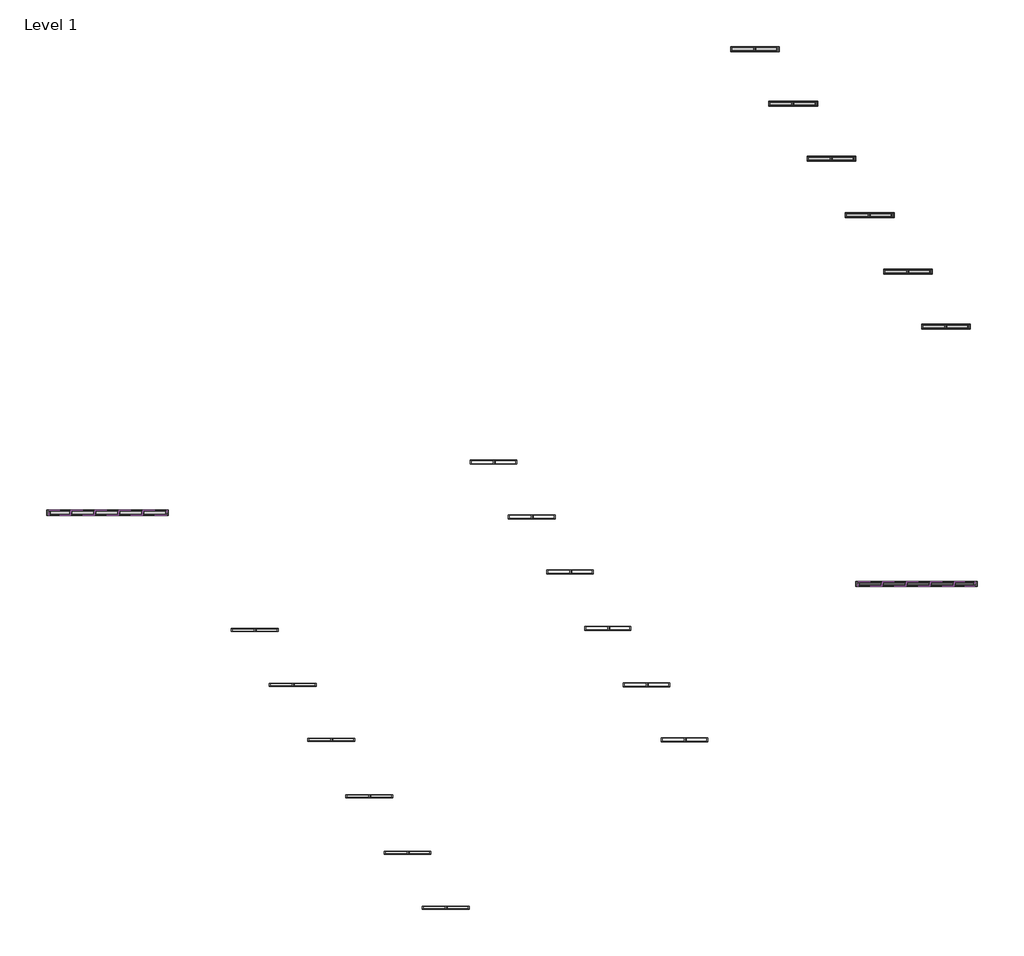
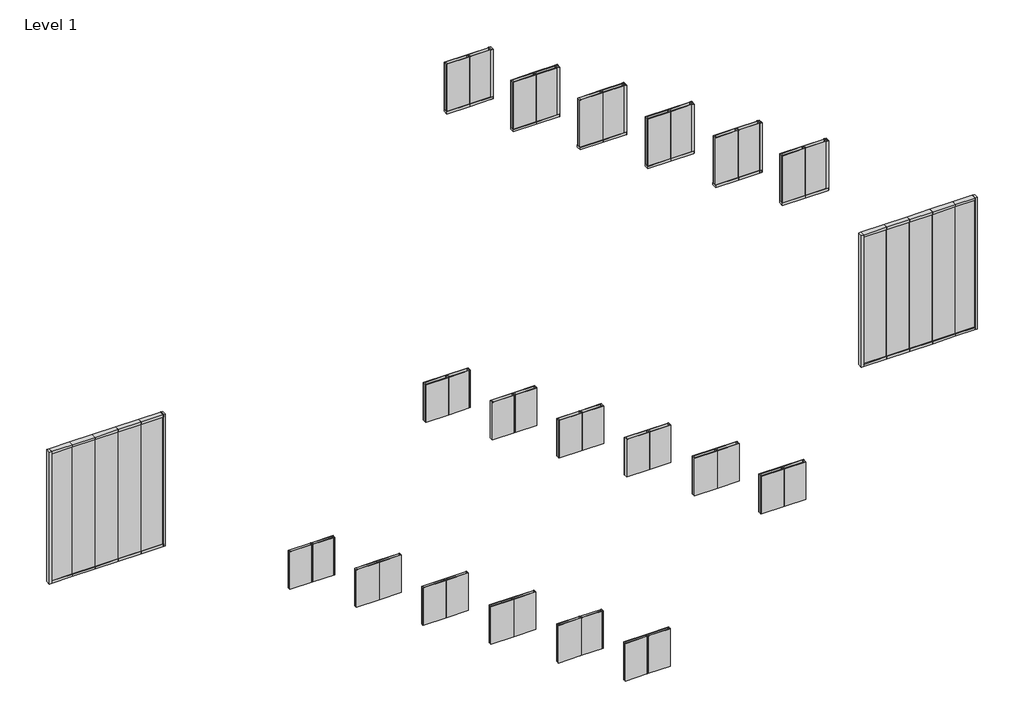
# One storey: 46 plates, 42 members.
"""IFC4 building model written with IfcOpenShell, lengths in millimetres."""

from ifc_helpers import new_model, si_unit, origin, place, context, project, spatial, transform, mapped, element, save
from components import rectangular_mullion_208d5230, rectangular_mullion_uniquad_quad_frame_clear_anodized_5a02334a, rectangular_mullion_uniquad_quad_frame_clear_anodized_c6627131, rectangular_mullion_uniquad_quad_frame_clear_anodized_229f6564, rectangular_mullion_uniquad_quad_frame_clear_anodized_5699e573, rectangular_mullion_uniquad_quad_frame_clear_anodized_4d31274b, rectangular_mullion_uniquad_quad_frame_clear_anodized_7ebbf98f, uniquad_quad_glazed_system_3in_3in_panel_blue_matte_5e3f416c, uniquad_quad_glazed_system_3in_3in_panel_blue_matte_152e314e, uniquad_quad_glazed_system_3in_3in_panel_bronze_matte_737278b4, uniquad_quad_glazed_system_3in_3in_panel_clear_matte_5acf8fc9, uniquad_quad_glazed_system_3in_3in_panel_clear_matte_50605331, uniquad_quad_glazed_system_3in_3in_panel_green_matte_5bbcedde, uniquad_quad_glazed_system_3in_3in_panel_ice_white_matte_8fae7f0b, uniquad_quad_glazed_system_3in_3in_panel_reflective_gray_ee349e5f, uniquad_quad_glazed_system_4in_4in_panel_blue_matte_2cbfe2ae, uniquad_quad_glazed_system_4in_4in_panel_blue_matte_3aa89edd, uniquad_quad_glazed_system_4in_4in_panel_bronze_matte_92f861ea, uniquad_quad_glazed_system_4in_4in_panel_clear_matte_58cb2d23, uniquad_quad_glazed_system_4in_4in_panel_clear_matte_11e1fce8, uniquad_quad_glazed_system_4in_4in_panel_clear_matte_for_53d59329, uniquad_quad_glazed_system_4in_4in_panel_clear_matte_39d02d22, uniquad_quad_glazed_system_4in_4in_panel_green_matte_f2a2bc47, uniquad_quad_glazed_system_4in_4in_panel_white_matte_e51044c1

model = new_model("IFC4")

# Units and contexts
model_context = context("Model", 3, world=origin())
ifc_project = project(units=[si_unit("LENGTHUNIT", "METRE", prefix="MILLI")], contexts=[model_context])

# Site, building, storey
site = spatial("IfcSite", under=ifc_project)
building = spatial("IfcBuilding", under=site)
storey = spatial("IfcBuildingStorey", under=building, Name="Level 1", Elevation=0.0)

# Members
placement = place(None, origin())
rectangular_mullion_shape = rectangular_mullion_208d5230(model_context)
element("IfcMember", 1, ObjectType="Rectangular Mullion : UniQuad-Quad Frame - Hartford Green #84", at=placement, inside=storey, context=model_context, shape_type="MappedRepresentation", body=[
    mapped(rectangular_mullion_shape, transform((17988.672058, 9946.0494316, 0.0), x_axis=(0.0, 0.0, -1.0), y_axis=(0.0, -1.0, 0.0), z_axis=(-1.0, 0.0, 0.0))),
])
rectangular_mullion_uniquad_quad_frame_clear_anodized_shape = rectangular_mullion_uniquad_quad_frame_clear_anodized_5a02334a(model_context)
element("IfcMember", 2, ObjectType="Rectangular Mullion : UniQuad-Quad Frame - Hartford Green #84", at=placement, inside=storey, context=model_context, shape_type="MappedRepresentation", body=[
    mapped(rectangular_mullion_uniquad_quad_frame_clear_anodized_shape, transform((18590.6322142, 9946.0494316, 0.0), x_axis=(0.0, 0.0, -1.0), y_axis=(0.0, -1.0, 0.0), z_axis=(-1.0, 0.0, 0.0))),
])
rectangular_mullion_uniquad_quad_frame_clear_anodized_2_shape = rectangular_mullion_uniquad_quad_frame_clear_anodized_c6627131(model_context)
element("IfcMember", 3, ObjectType="Rectangular Mullion : UniQuad-Quad Frame - Hartford Green #84", at=placement, inside=storey, context=model_context, shape_type="MappedRepresentation", body=[
    mapped(rectangular_mullion_uniquad_quad_frame_clear_anodized_2_shape, transform((19207.872058, 9946.0494316, 0.0), x_axis=(1.0, 0.0, 0.0), y_axis=(0.0, -1.0, 0.0), z_axis=(0.0, 0.0, -1.0))),
])
element("IfcMember", 4, ObjectType="Rectangular Mullion : UniQuad-Quad Frame - Quaker Bronze", at=placement, inside=storey, context=model_context, shape_type="MappedRepresentation", body=[
    mapped(rectangular_mullion_uniquad_quad_frame_clear_anodized_shape, transform((18946.7346901, 8529.3074819, 0.0), x_axis=(0.0, 0.0, -1.0), y_axis=(0.0, -1.0, 0.0), z_axis=(-1.0, 0.0, 0.0))),
])
element("IfcMember", 5, ObjectType="Rectangular Mullion : UniQuad-Quad Frame - Quaker Bronze", at=placement, inside=storey, context=model_context, shape_type="MappedRepresentation", body=[
    mapped(rectangular_mullion_shape, transform((19548.6948464, 8529.3074819, 0.0), x_axis=(0.0, 0.0, -1.0), y_axis=(0.0, -1.0, 0.0), z_axis=(-1.0, 0.0, 0.0))),
])
element("IfcMember", 6, ObjectType="Rectangular Mullion : UniQuad-Quad Frame - Quaker Bronze", at=placement, inside=storey, context=model_context, shape_type="MappedRepresentation", body=[
    mapped(rectangular_mullion_uniquad_quad_frame_clear_anodized_2_shape, transform((20165.9346901, 8529.3074819, 0.0), x_axis=(1.0, 0.0, 0.0), y_axis=(0.0, -1.0, 0.0), z_axis=(0.0, 0.0, -1.0))),
])
element("IfcMember", 7, ObjectType="Rectangular Mullion : UniQuad-Quad Frame - Clear Anodized Aluminum", at=placement, inside=storey, context=model_context, shape_type="MappedRepresentation", body=[
    mapped(rectangular_mullion_uniquad_quad_frame_clear_anodized_shape, transform((15716.4443177, 14110.0676806, 0.0), x_axis=(0.0, 0.0, -1.0), y_axis=(0.0, -1.0, 0.0), z_axis=(-1.0, 0.0, 0.0))),
])
element("IfcMember", 8, ObjectType="Rectangular Mullion : UniQuad-Quad Frame - Clear Anodized Aluminum", at=placement, inside=storey, context=model_context, shape_type="MappedRepresentation", body=[
    mapped(rectangular_mullion_uniquad_quad_frame_clear_anodized_2_shape, transform((16333.6841615, 14110.0676806, 0.0), x_axis=(1.0, 0.0, 0.0), y_axis=(0.0, -1.0, 0.0), z_axis=(0.0, 0.0, -1.0))),
])
rectangular_mullion_uniquad_quad_frame_clear_anodized_3_shape = rectangular_mullion_uniquad_quad_frame_clear_anodized_229f6564(model_context)
element("IfcMember", 9, ObjectType="Rectangular Mullion : UniQuad-Quad Frame - Clear Anodized Aluminum", at=placement, inside=storey, context=model_context, shape_type="MappedRepresentation", body=[
    mapped(rectangular_mullion_uniquad_quad_frame_clear_anodized_3_shape, transform((-1973.0219365, 2480.5566435, 0.0), x_axis=(0.0, 0.0, -1.0), y_axis=(0.0, -1.0, 0.0), z_axis=(-1.0, 0.0, 0.0))),
])
element("IfcMember", 10, ObjectType="Rectangular Mullion : UniQuad-Quad Frame - Clear Anodized Aluminum", at=placement, inside=storey, context=model_context, shape_type="MappedRepresentation", body=[
    mapped(rectangular_mullion_uniquad_quad_frame_clear_anodized_shape, transform((-230.6414677, 2480.5566435, 0.0), x_axis=(0.0, 0.0, -1.0), y_axis=(0.0, -1.0, 0.0), z_axis=(-1.0, 0.0, 0.0))),
])
element("IfcMember", 11, ObjectType="Rectangular Mullion : UniQuad-Quad Frame - Clear Anodized Aluminum", at=placement, inside=storey, context=model_context, shape_type="MappedRepresentation", body=[
    mapped(rectangular_mullion_uniquad_quad_frame_clear_anodized_shape, transform((20120.7646302, 696.0223876, 0.0), x_axis=(0.0, 0.0, -1.0), y_axis=(0.0, -1.0, 0.0), z_axis=(-1.0, 0.0, 0.0))),
])
element("IfcMember", 12, ObjectType="Rectangular Mullion : UniQuad-Quad Frame - Clear Anodized Aluminum", at=placement, inside=storey, context=model_context, shape_type="MappedRepresentation", body=[
    mapped(rectangular_mullion_uniquad_quad_frame_clear_anodized_shape, transform((18916.8443177, 696.0223876, 0.0), x_axis=(0.0, 0.0, -1.0), y_axis=(0.0, -1.0, 0.0), z_axis=(-1.0, 0.0, 0.0))),
])
element("IfcMember", 13, ObjectType="Rectangular Mullion : UniQuad-Quad Frame - Clear Anodized Aluminum", at=placement, inside=storey, context=model_context, shape_type="MappedRepresentation", body=[
    mapped(rectangular_mullion_uniquad_quad_frame_clear_anodized_shape, transform((19518.804474, 696.0223876, 0.0), x_axis=(0.0, 0.0, -1.0), y_axis=(0.0, -1.0, 0.0), z_axis=(-1.0, 0.0, 0.0))),
])
element("IfcMember", 14, ObjectType="Rectangular Mullion : UniQuad-Quad Frame - Clear Anodized Aluminum", at=placement, inside=storey, context=model_context, shape_type="MappedRepresentation", body=[
    mapped(rectangular_mullion_uniquad_quad_frame_clear_anodized_shape, transform((-1434.5617802, 2480.5566435, 0.0), x_axis=(0.0, 0.0, -1.0), y_axis=(0.0, -1.0, 0.0), z_axis=(-1.0, 0.0, 0.0))),
])
element("IfcMember", 15, ObjectType="Rectangular Mullion : UniQuad-Quad Frame - Clear Anodized Aluminum", at=placement, inside=storey, context=model_context, shape_type="MappedRepresentation", body=[
    mapped(rectangular_mullion_uniquad_quad_frame_clear_anodized_shape, transform((-832.601624, 2480.5566435, 0.0), x_axis=(0.0, 0.0, -1.0), y_axis=(0.0, -1.0, 0.0), z_axis=(-1.0, 0.0, 0.0))),
])
element("IfcMember", 16, ObjectType="Rectangular Mullion : UniQuad-Quad Frame - Clear Anodized Aluminum", at=placement, inside=storey, context=model_context, shape_type="MappedRepresentation", body=[
    mapped(rectangular_mullion_uniquad_quad_frame_clear_anodized_shape, transform((371.3186885, 2480.5566435, 0.0), x_axis=(0.0, 0.0, -1.0), y_axis=(0.0, -1.0, 0.0), z_axis=(-1.0, 0.0, 0.0))),
])
element("IfcMember", 17, ObjectType="Rectangular Mullion : UniQuad-Quad Frame - Clear Anodized Aluminum", at=placement, inside=storey, context=model_context, shape_type="MappedRepresentation", body=[
    mapped(rectangular_mullion_uniquad_quad_frame_clear_anodized_shape, transform((-230.6414677, 2480.5566435, 3657.6), x_axis=(0.0, 0.0, 1.0), y_axis=(0.0, -1.0, 0.0), z_axis=(1.0, 0.0, 0.0))),
])
element("IfcMember", 18, ObjectType="Rectangular Mullion : UniQuad-Quad Frame - Clear Anodized Aluminum", at=placement, inside=storey, context=model_context, shape_type="MappedRepresentation", body=[
    mapped(rectangular_mullion_uniquad_quad_frame_clear_anodized_shape, transform((20722.7247865, 696.0223876, 3657.6), x_axis=(0.0, 0.0, 1.0), y_axis=(0.0, -1.0, 0.0), z_axis=(1.0, 0.0, 0.0))),
])
element("IfcMember", 19, ObjectType="Rectangular Mullion : UniQuad-Quad Frame - Clear Anodized Aluminum", at=placement, inside=storey, context=model_context, shape_type="MappedRepresentation", body=[
    mapped(rectangular_mullion_uniquad_quad_frame_clear_anodized_shape, transform((19518.804474, 696.0223876, 3657.6), x_axis=(0.0, 0.0, 1.0), y_axis=(0.0, -1.0, 0.0), z_axis=(1.0, 0.0, 0.0))),
])
element("IfcMember", 20, ObjectType="Rectangular Mullion : UniQuad-Quad Frame - Clear Anodized Aluminum", at=placement, inside=storey, context=model_context, shape_type="MappedRepresentation", body=[
    mapped(rectangular_mullion_uniquad_quad_frame_clear_anodized_shape, transform((20120.7646302, 696.0223876, 3657.6), x_axis=(0.0, 0.0, 1.0), y_axis=(0.0, -1.0, 0.0), z_axis=(1.0, 0.0, 0.0))),
])
element("IfcMember", 21, ObjectType="Rectangular Mullion : UniQuad-Quad Frame - Clear Anodized Aluminum", at=placement, inside=storey, context=model_context, shape_type="MappedRepresentation", body=[
    mapped(rectangular_mullion_uniquad_quad_frame_clear_anodized_shape, transform((371.3186885, 2480.5566435, 3657.6), x_axis=(0.0, 0.0, 1.0), y_axis=(0.0, -1.0, 0.0), z_axis=(1.0, 0.0, 0.0))),
])
element("IfcMember", 22, ObjectType="Rectangular Mullion : UniQuad-Quad Frame - Clear Anodized Aluminum", at=placement, inside=storey, context=model_context, shape_type="MappedRepresentation", body=[
    mapped(rectangular_mullion_uniquad_quad_frame_clear_anodized_shape, transform((973.2788448, 2480.5566435, 3657.6), x_axis=(0.0, 0.0, 1.0), y_axis=(0.0, -1.0, 0.0), z_axis=(1.0, 0.0, 0.0))),
])
element("IfcMember", 23, ObjectType="Rectangular Mullion : UniQuad-Quad Frame - Clear Anodized Aluminum", at=placement, inside=storey, context=model_context, shape_type="MappedRepresentation", body=[
    mapped(rectangular_mullion_uniquad_quad_frame_clear_anodized_shape, transform((-832.601624, 2480.5566435, 3657.6), x_axis=(0.0, 0.0, 1.0), y_axis=(0.0, -1.0, 0.0), z_axis=(1.0, 0.0, 0.0))),
])
rectangular_mullion_uniquad_quad_frame_clear_anodized_4_shape = rectangular_mullion_uniquad_quad_frame_clear_anodized_5699e573(model_context)
element("IfcMember", 24, ObjectType="Rectangular Mullion : UniQuad-Quad Frame - Clear Anodized Aluminum", at=placement, inside=storey, context=model_context, shape_type="MappedRepresentation", body=[
    mapped(rectangular_mullion_uniquad_quad_frame_clear_anodized_4_shape, transform((-1434.5617802, 2480.5566435, 3657.6), x_axis=(0.0, 0.0, 1.0), y_axis=(0.0, -1.0, 0.0), z_axis=(1.0, 0.0, 0.0))),
])
rectangular_mullion_uniquad_quad_frame_clear_anodized_5_shape = rectangular_mullion_uniquad_quad_frame_clear_anodized_4d31274b(model_context)
element("IfcMember", 25, ObjectType="Rectangular Mullion : UniQuad-Quad Frame - Clear Anodized Aluminum", at=placement, inside=storey, context=model_context, shape_type="MappedRepresentation", body=[
    mapped(rectangular_mullion_uniquad_quad_frame_clear_anodized_5_shape, transform((-2036.5219365, 2480.5566435, 3657.6), x_axis=(-1.0, 0.0, 0.0), y_axis=(0.0, -1.0, 0.0), z_axis=(0.0, 0.0, 1.0))),
])
element("IfcMember", 26, ObjectType="Rectangular Mullion : UniQuad-Quad Frame - Clear Anodized Aluminum", at=placement, inside=storey, context=model_context, shape_type="MappedRepresentation", body=[
    mapped(rectangular_mullion_uniquad_quad_frame_clear_anodized_5_shape, transform((18251.3841615, 696.0223876, 3657.6), x_axis=(-1.0, 0.0, 0.0), y_axis=(0.0, -1.0, 0.0), z_axis=(0.0, 0.0, 1.0))),
])
element("IfcMember", 27, ObjectType="Rectangular Mullion : UniQuad-Quad Frame - Clear Anodized Aluminum", at=placement, inside=storey, context=model_context, shape_type="MappedRepresentation", body=[
    mapped(rectangular_mullion_uniquad_quad_frame_clear_anodized_5_shape, transform((1011.4780635, 2480.5566435, 0.0), x_axis=(1.0, 0.0, 0.0), y_axis=(0.0, -1.0, 0.0), z_axis=(0.0, 0.0, -1.0))),
])
element("IfcMember", 28, ObjectType="Rectangular Mullion : UniQuad-Quad Frame - Clear Anodized Aluminum", at=placement, inside=storey, context=model_context, shape_type="MappedRepresentation", body=[
    mapped(rectangular_mullion_uniquad_quad_frame_clear_anodized_5_shape, transform((21299.3841615, 696.0223876, 0.0), x_axis=(1.0, 0.0, 0.0), y_axis=(0.0, -1.0, 0.0), z_axis=(0.0, 0.0, -1.0))),
])
element("IfcMember", 29, ObjectType="Rectangular Mullion : UniQuad-Quad Frame - Clear Anodized Aluminum", at=placement, inside=storey, context=model_context, shape_type="MappedRepresentation", body=[
    mapped(rectangular_mullion_uniquad_quad_frame_clear_anodized_shape, transform((15114.4841615, 14110.0676806, 0.0), x_axis=(0.0, 0.0, -1.0), y_axis=(0.0, -1.0, 0.0), z_axis=(-1.0, 0.0, 0.0))),
])
element("IfcMember", 30, ObjectType="Rectangular Mullion : UniQuad-Quad Frame - Clear Anodized Aluminum", at=placement, inside=storey, context=model_context, shape_type="MappedRepresentation", body=[
    mapped(rectangular_mullion_uniquad_quad_frame_clear_anodized_shape, transform((18916.8443177, 696.0223876, 3657.6), x_axis=(0.0, 0.0, 1.0), y_axis=(0.0, -1.0, 0.0), z_axis=(1.0, 0.0, 0.0))),
])
element("IfcMember", 31, ObjectType="Rectangular Mullion : UniQuad-Quad Frame - Clear Anodized Aluminum", at=placement, inside=storey, context=model_context, shape_type="MappedRepresentation", body=[
    mapped(rectangular_mullion_uniquad_quad_frame_clear_anodized_shape, transform((18314.8841615, 696.0223876, 0.0), x_axis=(0.0, 0.0, -1.0), y_axis=(0.0, -1.0, 0.0), z_axis=(-1.0, 0.0, 0.0))),
])
rectangular_mullion_uniquad_quad_frame_clear_anodized_6_shape = rectangular_mullion_uniquad_quad_frame_clear_anodized_7ebbf98f(model_context)
element("IfcMember", 32, ObjectType="Rectangular Mullion : UniQuad-Quad Frame - Clear Anodized Aluminum", at=placement, inside=storey, context=model_context, shape_type="MappedRepresentation", body=[
    mapped(rectangular_mullion_uniquad_quad_frame_clear_anodized_6_shape, transform((21235.8841615, 696.0223876, 3657.6), x_axis=(0.0, 0.0, 1.0), y_axis=(0.0, -1.0, 0.0), z_axis=(1.0, 0.0, 0.0))),
])
element("IfcMember", 33, ObjectType="Rectangular Mullion : UniQuad-Quad Frame - Clear Anodized Aluminum", at=placement, inside=storey, context=model_context, shape_type="MappedRepresentation", body=[
    mapped(rectangular_mullion_uniquad_quad_frame_clear_anodized_6_shape, transform((20722.7247865, 696.0223876, 0.0), x_axis=(0.0, 0.0, -1.0), y_axis=(0.0, -1.0, 0.0), z_axis=(-1.0, 0.0, 0.0))),
])
element("IfcMember", 34, ObjectType="Rectangular Mullion : UniQuad-Quad Frame - Med Gloss Black Cat", at=placement, inside=storey, context=model_context, shape_type="MappedRepresentation", body=[
    mapped(rectangular_mullion_shape, transform((16072.5467936, 12741.4333309, 0.0), x_axis=(0.0, 0.0, -1.0), y_axis=(0.0, -1.0, 0.0), z_axis=(-1.0, 0.0, 0.0))),
])
element("IfcMember", 35, ObjectType="Rectangular Mullion : UniQuad-Quad Frame - Med Gloss Black Cat", at=placement, inside=storey, context=model_context, shape_type="MappedRepresentation", body=[
    mapped(rectangular_mullion_uniquad_quad_frame_clear_anodized_shape, transform((16674.5069499, 12741.4333309, 0.0), x_axis=(0.0, 0.0, -1.0), y_axis=(0.0, -1.0, 0.0), z_axis=(-1.0, 0.0, 0.0))),
])
element("IfcMember", 36, ObjectType="Rectangular Mullion : UniQuad-Quad Frame - Med Gloss Black Cat", at=placement, inside=storey, context=model_context, shape_type="MappedRepresentation", body=[
    mapped(rectangular_mullion_uniquad_quad_frame_clear_anodized_2_shape, transform((17291.7467936, 12741.4333309, 0.0), x_axis=(1.0, 0.0, 0.0), y_axis=(0.0, -1.0, 0.0), z_axis=(0.0, 0.0, -1.0))),
])
element("IfcMember", 37, ObjectType="Rectangular Mullion : UniQuad-Quad Frame - WS Bronze", at=placement, inside=storey, context=model_context, shape_type="MappedRepresentation", body=[
    mapped(rectangular_mullion_uniquad_quad_frame_clear_anodized_shape, transform((19904.7973223, 7150.6655322, 0.0), x_axis=(0.0, 0.0, -1.0), y_axis=(0.0, -1.0, 0.0), z_axis=(-1.0, 0.0, 0.0))),
])
element("IfcMember", 38, ObjectType="Rectangular Mullion : UniQuad-Quad Frame - WS Bronze", at=placement, inside=storey, context=model_context, shape_type="MappedRepresentation", body=[
    mapped(rectangular_mullion_shape, transform((20506.7574785, 7150.6655322, 0.0), x_axis=(0.0, 0.0, -1.0), y_axis=(0.0, -1.0, 0.0), z_axis=(-1.0, 0.0, 0.0))),
])
element("IfcMember", 39, ObjectType="Rectangular Mullion : UniQuad-Quad Frame - WS Bronze", at=placement, inside=storey, context=model_context, shape_type="MappedRepresentation", body=[
    mapped(rectangular_mullion_uniquad_quad_frame_clear_anodized_2_shape, transform((21123.9973223, 7150.6655322, 0.0), x_axis=(1.0, 0.0, 0.0), y_axis=(0.0, -1.0, 0.0), z_axis=(0.0, 0.0, -1.0))),
])
element("IfcMember", 40, ObjectType="Rectangular Mullion : UniQuad-Quad Frame - WS Clay", at=placement, inside=storey, context=model_context, shape_type="MappedRepresentation", body=[
    mapped(rectangular_mullion_shape, transform((17030.6094258, 11362.7913812, 0.0), x_axis=(0.0, 0.0, -1.0), y_axis=(0.0, -1.0, 0.0), z_axis=(-1.0, 0.0, 0.0))),
])
element("IfcMember", 41, ObjectType="Rectangular Mullion : UniQuad-Quad Frame - WS Clay", at=placement, inside=storey, context=model_context, shape_type="MappedRepresentation", body=[
    mapped(rectangular_mullion_uniquad_quad_frame_clear_anodized_shape, transform((17632.5695821, 11362.7913812, 0.0), x_axis=(0.0, 0.0, -1.0), y_axis=(0.0, -1.0, 0.0), z_axis=(-1.0, 0.0, 0.0))),
])
element("IfcMember", 42, ObjectType="Rectangular Mullion : UniQuad-Quad Frame - WS Clay", at=placement, inside=storey, context=model_context, shape_type="MappedRepresentation", body=[
    mapped(rectangular_mullion_uniquad_quad_frame_clear_anodized_2_shape, transform((18249.8094258, 11362.7913812, 0.0), x_axis=(1.0, 0.0, 0.0), y_axis=(0.0, -1.0, 0.0), z_axis=(0.0, 0.0, -1.0))),
])

# Plates
uniquad_quad_glazed_system_3in_3in_panel_blue_matte_shape = uniquad_quad_glazed_system_3in_3in_panel_blue_matte_5e3f416c(model_context)
element("IfcPlate", 43, ObjectType="UniQuad Quad-Glazed System - 3in : 3in Panel - Blue Matte", at=placement, inside=storey, context=model_context, shape_type="MappedRepresentation", body=[
    mapped(uniquad_quad_glazed_system_3in_3in_panel_blue_matte_shape, transform((3849.5859596, -1832.6615117, 0.0), x_axis=(1.0, 0.0, 0.0), y_axis=(0.0, 1.0, 0.0), z_axis=(0.0, 0.0, 1.0))),
])
uniquad_quad_glazed_system_3in_3in_panel_blue_matte_2_shape = uniquad_quad_glazed_system_3in_3in_panel_blue_matte_152e314e(model_context)
element("IfcPlate", 44, ObjectType="UniQuad Quad-Glazed System - 3in : 3in Panel - Blue Matte", at=placement, inside=storey, context=model_context, shape_type="MappedRepresentation", body=[
    mapped(uniquad_quad_glazed_system_3in_3in_panel_blue_matte_2_shape, transform((4440.164507, -1832.6615117, 0.0), x_axis=(1.0, 0.0, 0.0), y_axis=(0.0, 1.0, 0.0), z_axis=(0.0, 0.0, 1.0))),
])
element("IfcPlate", 45, ObjectType="UniQuad Quad-Glazed System - 3in : 3in Panel - Bronze Matte", at=placement, inside=storey, context=model_context, shape_type="MappedRepresentation", body=[
    mapped(uniquad_quad_glazed_system_3in_3in_panel_blue_matte_shape, transform((6723.7738561, -6044.7873607, 0.0), x_axis=(1.0, 0.0, 0.0), y_axis=(0.0, 1.0, 0.0), z_axis=(0.0, 0.0, 1.0))),
])
uniquad_quad_glazed_system_3in_3in_panel_bronze_matte_shape = uniquad_quad_glazed_system_3in_3in_panel_bronze_matte_737278b4(model_context)
element("IfcPlate", 46, ObjectType="UniQuad Quad-Glazed System - 3in : 3in Panel - Bronze Matte", at=placement, inside=storey, context=model_context, shape_type="MappedRepresentation", body=[
    mapped(uniquad_quad_glazed_system_3in_3in_panel_bronze_matte_shape, transform((7310.7772112, -6044.7873607, 0.0), x_axis=(1.0, 0.0, 0.0), y_axis=(0.0, 1.0, 0.0), z_axis=(0.0, 0.0, 1.0))),
])
uniquad_quad_glazed_system_3in_3in_panel_clear_matte_shape = uniquad_quad_glazed_system_3in_3in_panel_clear_matte_5acf8fc9(model_context)
element("IfcPlate", 47, ObjectType="UniQuad Quad-Glazed System - 3in : 3in Panel - Clear Matte", at=placement, inside=storey, context=model_context, shape_type="MappedRepresentation", body=[
    mapped(uniquad_quad_glazed_system_3in_3in_panel_clear_matte_shape, transform((18615.8642396, 696.0223876, 63.5), x_axis=(1.0, 0.0, 0.0), y_axis=(0.0, 1.0, 0.0), z_axis=(0.0, 0.0, 1.0))),
])
element("IfcPlate", 48, ObjectType="UniQuad Quad-Glazed System - 3in : 3in Panel - Clear Matte", at=placement, inside=storey, context=model_context, shape_type="MappedRepresentation", body=[
    mapped(uniquad_quad_glazed_system_3in_3in_panel_clear_matte_shape, transform((19217.8243959, 696.0223876, 63.5), x_axis=(1.0, 0.0, 0.0), y_axis=(0.0, 1.0, 0.0), z_axis=(0.0, 0.0, 1.0))),
])
element("IfcPlate", 49, ObjectType="UniQuad Quad-Glazed System - 3in : 3in Panel - Clear Matte", at=placement, inside=storey, context=model_context, shape_type="MappedRepresentation", body=[
    mapped(uniquad_quad_glazed_system_3in_3in_panel_clear_matte_shape, transform((19819.7845521, 696.0223876, 63.5), x_axis=(1.0, 0.0, 0.0), y_axis=(0.0, 1.0, 0.0), z_axis=(0.0, 0.0, 1.0))),
])
element("IfcPlate", 50, ObjectType="UniQuad Quad-Glazed System - 3in : 3in Panel - Clear Matte", at=placement, inside=storey, context=model_context, shape_type="MappedRepresentation", body=[
    mapped(uniquad_quad_glazed_system_3in_3in_panel_clear_matte_shape, transform((20421.7447084, 696.0223876, 63.5), x_axis=(1.0, 0.0, 0.0), y_axis=(0.0, 1.0, 0.0), z_axis=(0.0, 0.0, 1.0))),
])
uniquad_quad_glazed_system_3in_3in_panel_clear_matte_2_shape = uniquad_quad_glazed_system_3in_3in_panel_clear_matte_50605331(model_context)
element("IfcPlate", 51, ObjectType="UniQuad Quad-Glazed System - 3in : 3in Panel - Clear Matte", at=placement, inside=storey, context=model_context, shape_type="MappedRepresentation", body=[
    mapped(uniquad_quad_glazed_system_3in_3in_panel_clear_matte_2_shape, transform((20979.304474, 696.0223876, 63.5), x_axis=(1.0, 0.0, 0.0), y_axis=(0.0, 1.0, 0.0), z_axis=(0.0, 0.0, 1.0))),
])
element("IfcPlate", 52, ObjectType="UniQuad Quad-Glazed System - 3in : 3in Panel - Green Matte", at=placement, inside=storey, context=model_context, shape_type="MappedRepresentation", body=[
    mapped(uniquad_quad_glazed_system_3in_3in_panel_blue_matte_shape, transform((4807.6485918, -3211.3034614, 0.0), x_axis=(1.0, 0.0, 0.0), y_axis=(0.0, 1.0, 0.0), z_axis=(0.0, 0.0, 1.0))),
])
uniquad_quad_glazed_system_3in_3in_panel_green_matte_shape = uniquad_quad_glazed_system_3in_3in_panel_green_matte_5bbcedde(model_context)
element("IfcPlate", 53, ObjectType="UniQuad Quad-Glazed System - 3in : 3in Panel - Green Matte", at=placement, inside=storey, context=model_context, shape_type="MappedRepresentation", body=[
    mapped(uniquad_quad_glazed_system_3in_3in_panel_green_matte_shape, transform((5400.2974694, -3211.3034614, 0.0), x_axis=(1.0, 0.0, 0.0), y_axis=(0.0, 1.0, 0.0), z_axis=(0.0, 0.0, 1.0))),
])
element("IfcPlate", 54, ObjectType="UniQuad Quad-Glazed System - 3in : 3in Panel - Ice White Matte", at=placement, inside=storey, context=model_context, shape_type="MappedRepresentation", body=[
    mapped(uniquad_quad_glazed_system_3in_3in_panel_blue_matte_shape, transform((2891.5233275, -464.027162, 0.0), x_axis=(1.0, 0.0, 0.0), y_axis=(0.0, 1.0, 0.0), z_axis=(0.0, 0.0, 1.0))),
])
uniquad_quad_glazed_system_3in_3in_panel_ice_white_matte_shape = uniquad_quad_glazed_system_3in_3in_panel_ice_white_matte_8fae7f0b(model_context)
element("IfcPlate", 55, ObjectType="UniQuad Quad-Glazed System - 3in : 3in Panel - Ice White Matte", at=placement, inside=storey, context=model_context, shape_type="MappedRepresentation", body=[
    mapped(uniquad_quad_glazed_system_3in_3in_panel_ice_white_matte_shape, transform((3481.2747394, -464.027162, 0.0), x_axis=(1.0, 0.0, 0.0), y_axis=(0.0, 1.0, 0.0), z_axis=(0.0, 0.0, 1.0))),
])
element("IfcPlate", 56, ObjectType="UniQuad Quad-Glazed System - 3in : 3in Panel - Reflective Gray Matte", at=placement, inside=storey, context=model_context, shape_type="MappedRepresentation", body=[
    mapped(uniquad_quad_glazed_system_3in_3in_panel_blue_matte_shape, transform((7681.8364883, -7423.4293104, 0.0), x_axis=(1.0, 0.0, 0.0), y_axis=(0.0, 1.0, 0.0), z_axis=(0.0, 0.0, 1.0))),
])
uniquad_quad_glazed_system_3in_3in_panel_reflective_gray_shape = uniquad_quad_glazed_system_3in_3in_panel_reflective_gray_ee349e5f(model_context)
element("IfcPlate", 57, ObjectType="UniQuad Quad-Glazed System - 3in : 3in Panel - Reflective Gray Matte", at=placement, inside=storey, context=model_context, shape_type="MappedRepresentation", body=[
    mapped(uniquad_quad_glazed_system_3in_3in_panel_reflective_gray_shape, transform((8273.4740189, -7423.4293104, 0.0), x_axis=(1.0, 0.0, 0.0), y_axis=(0.0, 1.0, 0.0), z_axis=(0.0, 0.0, 1.0))),
])
element("IfcPlate", 58, ObjectType="UniQuad Quad-Glazed System - 3in : 3in Panel - White Matte", at=placement, inside=storey, context=model_context, shape_type="MappedRepresentation", body=[
    mapped(uniquad_quad_glazed_system_3in_3in_panel_blue_matte_shape, transform((5765.711224, -4628.0454111, 0.0), x_axis=(1.0, 0.0, 0.0), y_axis=(0.0, 1.0, 0.0), z_axis=(0.0, 0.0, 1.0))),
])
element("IfcPlate", 59, ObjectType="UniQuad Quad-Glazed System - 3in : 3in Panel - White Matte", at=placement, inside=storey, context=model_context, shape_type="MappedRepresentation", body=[
    mapped(uniquad_quad_glazed_system_3in_3in_panel_ice_white_matte_shape, transform((6355.4626359, -4628.0454111, 0.0), x_axis=(1.0, 0.0, 0.0), y_axis=(0.0, 1.0, 0.0), z_axis=(0.0, 0.0, 1.0))),
])
uniquad_quad_glazed_system_4in_4in_panel_blue_matte_shape = uniquad_quad_glazed_system_4in_4in_panel_blue_matte_2cbfe2ae(model_context)
element("IfcPlate", 60, ObjectType="UniQuad Quad-Glazed System - 4in : 4in Panel - Blue Matte", at=placement, inside=storey, context=model_context, shape_type="MappedRepresentation", body=[
    mapped(uniquad_quad_glazed_system_4in_4in_panel_blue_matte_shape, transform((9841.7389753, 2379.4643373, 0.0), x_axis=(1.0, 0.0, 0.0), y_axis=(0.0, 1.0, 0.0), z_axis=(0.0, 0.0, 1.0))),
])
uniquad_quad_glazed_system_4in_4in_panel_blue_matte_2_shape = uniquad_quad_glazed_system_4in_4in_panel_blue_matte_3aa89edd(model_context)
element("IfcPlate", 61, ObjectType="UniQuad Quad-Glazed System - 4in : 4in Panel - Blue Matte", at=placement, inside=storey, context=model_context, shape_type="MappedRepresentation", body=[
    mapped(uniquad_quad_glazed_system_4in_4in_panel_blue_matte_2_shape, transform((10426.493366, 2379.4643373, 0.0), x_axis=(1.0, 0.0, 0.0), y_axis=(0.0, 1.0, 0.0), z_axis=(0.0, 0.0, 1.0))),
])
element("IfcPlate", 62, ObjectType="UniQuad Quad-Glazed System - 4in : 4in Panel - Bronze Matte", at=placement, inside=storey, context=model_context, shape_type="MappedRepresentation", body=[
    mapped(uniquad_quad_glazed_system_4in_4in_panel_blue_matte_shape, transform((12715.9268718, -1832.6615117, 0.0), x_axis=(1.0, 0.0, 0.0), y_axis=(0.0, 1.0, 0.0), z_axis=(0.0, 0.0, 1.0))),
])
uniquad_quad_glazed_system_4in_4in_panel_bronze_matte_shape = uniquad_quad_glazed_system_4in_4in_panel_bronze_matte_92f861ea(model_context)
element("IfcPlate", 63, ObjectType="UniQuad Quad-Glazed System - 4in : 4in Panel - Bronze Matte", at=placement, inside=storey, context=model_context, shape_type="MappedRepresentation", body=[
    mapped(uniquad_quad_glazed_system_4in_4in_panel_bronze_matte_shape, transform((13303.5438706, -1832.6615117, 0.0), x_axis=(1.0, 0.0, 0.0), y_axis=(0.0, 1.0, 0.0), z_axis=(0.0, 0.0, 1.0))),
])
uniquad_quad_glazed_system_4in_4in_panel_clear_matte_shape = uniquad_quad_glazed_system_4in_4in_panel_clear_matte_58cb2d23(model_context)
element("IfcPlate", 64, ObjectType="UniQuad Quad-Glazed System - 4in : 4in Panel - Clear Matte", at=placement, inside=storey, context=model_context, shape_type="MappedRepresentation", body=[
    mapped(uniquad_quad_glazed_system_4in_4in_panel_clear_matte_shape, transform((-1703.7918583, 2480.5566435, 63.5), x_axis=(1.0, 0.0, 0.0), y_axis=(0.0, 1.0, 0.0), z_axis=(0.0, 0.0, 1.0))),
])
uniquad_quad_glazed_system_4in_4in_panel_clear_matte_2_shape = uniquad_quad_glazed_system_4in_4in_panel_clear_matte_11e1fce8(model_context)
element("IfcPlate", 65, ObjectType="UniQuad Quad-Glazed System - 4in : 4in Panel - Clear Matte", at=placement, inside=storey, context=model_context, shape_type="MappedRepresentation", body=[
    mapped(uniquad_quad_glazed_system_4in_4in_panel_clear_matte_2_shape, transform((-1133.5817021, 2480.5566435, 63.5), x_axis=(1.0, 0.0, 0.0), y_axis=(0.0, 1.0, 0.0), z_axis=(0.0, 0.0, 1.0))),
])
element("IfcPlate", 66, ObjectType="UniQuad Quad-Glazed System - 4in : 4in Panel - Clear Matte", at=placement, inside=storey, context=model_context, shape_type="MappedRepresentation", body=[
    mapped(uniquad_quad_glazed_system_4in_4in_panel_clear_matte_2_shape, transform((-531.6215458, 2480.5566435, 63.5), x_axis=(1.0, 0.0, 0.0), y_axis=(0.0, 1.0, 0.0), z_axis=(0.0, 0.0, 1.0))),
])
element("IfcPlate", 67, ObjectType="UniQuad Quad-Glazed System - 4in : 4in Panel - Clear Matte", at=placement, inside=storey, context=model_context, shape_type="MappedRepresentation", body=[
    mapped(uniquad_quad_glazed_system_4in_4in_panel_clear_matte_2_shape, transform((70.3386104, 2480.5566435, 63.5), x_axis=(1.0, 0.0, 0.0), y_axis=(0.0, 1.0, 0.0), z_axis=(0.0, 0.0, 1.0))),
])
element("IfcPlate", 68, ObjectType="UniQuad Quad-Glazed System - 4in : 4in Panel - Clear Matte", at=placement, inside=storey, context=model_context, shape_type="MappedRepresentation", body=[
    mapped(uniquad_quad_glazed_system_4in_4in_panel_clear_matte_2_shape, transform((672.2987667, 2480.5566435, 63.5), x_axis=(1.0, 0.0, 0.0), y_axis=(0.0, 1.0, 0.0), z_axis=(0.0, 0.0, 1.0))),
])
uniquad_quad_glazed_system_4in_4in_panel_clear_matte_for_shape = uniquad_quad_glazed_system_4in_4in_panel_clear_matte_for_53d59329(model_context)
element("IfcPlate", 69, ObjectType="UniQuad Quad-Glazed System - 4in : 4in Panel - Clear Matte", at=placement, inside=storey, context=model_context, shape_type="MappedRepresentation", body=[
    mapped(uniquad_quad_glazed_system_4in_4in_panel_clear_matte_for_shape, transform((16975.487028, 12741.4333309, 63.5), x_axis=(1.0, 0.0, 0.0), y_axis=(0.0, 1.0, 0.0), z_axis=(0.0, 0.0, 1.0))),
])
element("IfcPlate", 70, ObjectType="UniQuad Quad-Glazed System - 4in : 4in Panel - Clear Matte", at=placement, inside=storey, context=model_context, shape_type="MappedRepresentation", body=[
    mapped(uniquad_quad_glazed_system_4in_4in_panel_clear_matte_for_shape, transform((16017.4243959, 14110.0676806, 63.5), x_axis=(1.0, 0.0, 0.0), y_axis=(0.0, 1.0, 0.0), z_axis=(0.0, 0.0, 1.0))),
])
element("IfcPlate", 71, ObjectType="UniQuad Quad-Glazed System - 4in : 4in Panel - Clear Matte", at=placement, inside=storey, context=model_context, shape_type="MappedRepresentation", body=[
    mapped(uniquad_quad_glazed_system_4in_4in_panel_clear_matte_for_shape, transform((17933.5496602, 11362.7913812, 63.5), x_axis=(1.0, 0.0, 0.0), y_axis=(0.0, 1.0, 0.0), z_axis=(0.0, 0.0, 1.0))),
])
element("IfcPlate", 72, ObjectType="UniQuad Quad-Glazed System - 4in : 4in Panel - Clear Matte", at=placement, inside=storey, context=model_context, shape_type="MappedRepresentation", body=[
    mapped(uniquad_quad_glazed_system_4in_4in_panel_clear_matte_for_shape, transform((18891.6122923, 9946.0494316, 63.5), x_axis=(1.0, 0.0, 0.0), y_axis=(0.0, 1.0, 0.0), z_axis=(0.0, 0.0, 1.0))),
])
element("IfcPlate", 73, ObjectType="UniQuad Quad-Glazed System - 4in : 4in Panel - Clear Matte", at=placement, inside=storey, context=model_context, shape_type="MappedRepresentation", body=[
    mapped(uniquad_quad_glazed_system_4in_4in_panel_clear_matte_for_shape, transform((19849.6749245, 8529.3074819, 63.5), x_axis=(1.0, 0.0, 0.0), y_axis=(0.0, 1.0, 0.0), z_axis=(0.0, 0.0, 1.0))),
])
element("IfcPlate", 74, ObjectType="UniQuad Quad-Glazed System - 4in : 4in Panel - Clear Matte", at=placement, inside=storey, context=model_context, shape_type="MappedRepresentation", body=[
    mapped(uniquad_quad_glazed_system_4in_4in_panel_clear_matte_for_shape, transform((20807.7375567, 7150.6655322, 63.5), x_axis=(1.0, 0.0, 0.0), y_axis=(0.0, 1.0, 0.0), z_axis=(0.0, 0.0, 1.0))),
])
element("IfcPlate", 75, ObjectType="UniQuad Quad-Glazed System - 4in : 4in Panel - Clear Matte", at=placement, inside=storey, context=model_context, shape_type="MappedRepresentation", body=[
    mapped(uniquad_quad_glazed_system_4in_4in_panel_blue_matte_shape, transform((13673.9895039, -3211.3034614, 0.0), x_axis=(1.0, 0.0, 0.0), y_axis=(0.0, 1.0, 0.0), z_axis=(0.0, 0.0, 1.0))),
])
uniquad_quad_glazed_system_4in_4in_panel_clear_matte_3_shape = uniquad_quad_glazed_system_4in_4in_panel_clear_matte_39d02d22(model_context)
element("IfcPlate", 76, ObjectType="UniQuad Quad-Glazed System - 4in : 4in Panel - Clear Matte", at=placement, inside=storey, context=model_context, shape_type="MappedRepresentation", body=[
    mapped(uniquad_quad_glazed_system_4in_4in_panel_clear_matte_3_shape, transform((14257.3376766, -3211.3034614, 0.0), x_axis=(1.0, 0.0, 0.0), y_axis=(0.0, 1.0, 0.0), z_axis=(0.0, 0.0, 1.0))),
])
element("IfcPlate", 77, ObjectType="UniQuad Quad-Glazed System - 4in : 4in Panel - Clear Matte for Mullion Example", at=placement, inside=storey, context=model_context, shape_type="MappedRepresentation", body=[
    mapped(uniquad_quad_glazed_system_4in_4in_panel_clear_matte_for_shape, transform((16373.5268718, 12741.4333309, 63.5), x_axis=(1.0, 0.0, 0.0), y_axis=(0.0, 1.0, 0.0), z_axis=(0.0, 0.0, 1.0))),
])
element("IfcPlate", 78, ObjectType="UniQuad Quad-Glazed System - 4in : 4in Panel - Clear Matte for Mullion Example", at=placement, inside=storey, context=model_context, shape_type="MappedRepresentation", body=[
    mapped(uniquad_quad_glazed_system_4in_4in_panel_clear_matte_for_shape, transform((15415.4642396, 14110.0676806, 63.5), x_axis=(1.0, 0.0, 0.0), y_axis=(0.0, 1.0, 0.0), z_axis=(0.0, 0.0, 1.0))),
])
element("IfcPlate", 79, ObjectType="UniQuad Quad-Glazed System - 4in : 4in Panel - Clear Matte for Mullion Example", at=placement, inside=storey, context=model_context, shape_type="MappedRepresentation", body=[
    mapped(uniquad_quad_glazed_system_4in_4in_panel_clear_matte_for_shape, transform((17331.5895039, 11362.7913812, 63.5), x_axis=(1.0, 0.0, 0.0), y_axis=(0.0, 1.0, 0.0), z_axis=(0.0, 0.0, 1.0))),
])
element("IfcPlate", 80, ObjectType="UniQuad Quad-Glazed System - 4in : 4in Panel - Clear Matte for Mullion Example", at=placement, inside=storey, context=model_context, shape_type="MappedRepresentation", body=[
    mapped(uniquad_quad_glazed_system_4in_4in_panel_clear_matte_for_shape, transform((18289.6521361, 9946.0494316, 63.5), x_axis=(1.0, 0.0, 0.0), y_axis=(0.0, 1.0, 0.0), z_axis=(0.0, 0.0, 1.0))),
])
element("IfcPlate", 81, ObjectType="UniQuad Quad-Glazed System - 4in : 4in Panel - Clear Matte for Mullion Example", at=placement, inside=storey, context=model_context, shape_type="MappedRepresentation", body=[
    mapped(uniquad_quad_glazed_system_4in_4in_panel_clear_matte_for_shape, transform((19247.7147683, 8529.3074819, 63.5), x_axis=(1.0, 0.0, 0.0), y_axis=(0.0, 1.0, 0.0), z_axis=(0.0, 0.0, 1.0))),
])
element("IfcPlate", 82, ObjectType="UniQuad Quad-Glazed System - 4in : 4in Panel - Clear Matte for Mullion Example", at=placement, inside=storey, context=model_context, shape_type="MappedRepresentation", body=[
    mapped(uniquad_quad_glazed_system_4in_4in_panel_clear_matte_for_shape, transform((20205.7774004, 7150.6655322, 63.5), x_axis=(1.0, 0.0, 0.0), y_axis=(0.0, 1.0, 0.0), z_axis=(0.0, 0.0, 1.0))),
])
element("IfcPlate", 83, ObjectType="UniQuad Quad-Glazed System - 4in : 4in Panel - Green Matte", at=placement, inside=storey, context=model_context, shape_type="MappedRepresentation", body=[
    mapped(uniquad_quad_glazed_system_4in_4in_panel_blue_matte_shape, transform((10799.8016075, 1000.8223876, 0.0), x_axis=(1.0, 0.0, 0.0), y_axis=(0.0, 1.0, 0.0), z_axis=(0.0, 0.0, 1.0))),
])
uniquad_quad_glazed_system_4in_4in_panel_green_matte_shape = uniquad_quad_glazed_system_4in_4in_panel_green_matte_f2a2bc47(model_context)
element("IfcPlate", 84, ObjectType="UniQuad Quad-Glazed System - 4in : 4in Panel - Green Matte", at=placement, inside=storey, context=model_context, shape_type="MappedRepresentation", body=[
    mapped(uniquad_quad_glazed_system_4in_4in_panel_green_matte_shape, transform((11384.3119267, 1000.8223876, 0.0), x_axis=(1.0, 0.0, 0.0), y_axis=(0.0, 1.0, 0.0), z_axis=(0.0, 0.0, 1.0))),
])
element("IfcPlate", 85, ObjectType="UniQuad Quad-Glazed System - 4in : 4in Panel - Ice White Matte", at=placement, inside=storey, context=model_context, shape_type="MappedRepresentation", body=[
    mapped(uniquad_quad_glazed_system_4in_4in_panel_blue_matte_shape, transform((8883.6763431, 3748.098687, 0.0), x_axis=(1.0, 0.0, 0.0), y_axis=(0.0, 1.0, 0.0), z_axis=(0.0, 0.0, 1.0))),
])
element("IfcPlate", 86, ObjectType="UniQuad Quad-Glazed System - 4in : 4in Panel - Ice White Matte", at=placement, inside=storey, context=model_context, shape_type="MappedRepresentation", body=[
    mapped(uniquad_quad_glazed_system_4in_4in_panel_blue_matte_2_shape, transform((9468.4307339, 3748.098687, 0.0), x_axis=(1.0, 0.0, 0.0), y_axis=(0.0, 1.0, 0.0), z_axis=(0.0, 0.0, 1.0))),
])
element("IfcPlate", 87, ObjectType="UniQuad Quad-Glazed System - 4in : 4in Panel - White Matte", at=placement, inside=storey, context=model_context, shape_type="MappedRepresentation", body=[
    mapped(uniquad_quad_glazed_system_4in_4in_panel_blue_matte_shape, transform((11757.8642396, -415.919562, 0.0), x_axis=(1.0, 0.0, 0.0), y_axis=(0.0, 1.0, 0.0), z_axis=(0.0, 0.0, 1.0))),
])
uniquad_quad_glazed_system_4in_4in_panel_white_matte_shape = uniquad_quad_glazed_system_4in_4in_panel_white_matte_e51044c1(model_context)
element("IfcPlate", 88, ObjectType="UniQuad Quad-Glazed System - 4in : 4in Panel - White Matte", at=placement, inside=storey, context=model_context, shape_type="MappedRepresentation", body=[
    mapped(uniquad_quad_glazed_system_4in_4in_panel_white_matte_shape, transform((12335.6629383, -415.919562, 0.0), x_axis=(1.0, 0.0, 0.0), y_axis=(0.0, 1.0, 0.0), z_axis=(0.0, 0.0, 1.0))),
])

save(model, "model.ifc")
